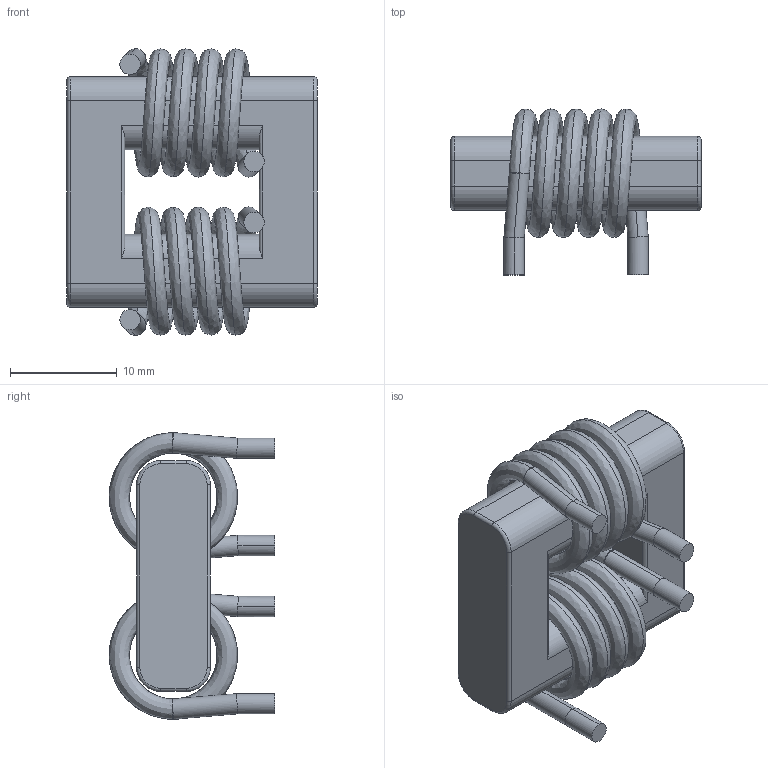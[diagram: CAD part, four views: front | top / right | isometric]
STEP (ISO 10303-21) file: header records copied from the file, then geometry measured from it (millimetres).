
FILE_DESCRIPTION (( 'STEP AP214' ), '1' );
FILE_NAME ('成品线圈3D图-THT-0766-700.STEP', '2025-08-25T08:58:18', ( '微软用户' ), ( '微软中国' ), 'SwSTEP 2.0', 'SolidWorks 2018', '' );
FILE_SCHEMA (( 'AUTOMOTIVE_DESIGN' ));
Length unit declared in the file: millimetre
Products named in the file (1): 成品线圈3D图-THT-0766-700
Bounding box: 23.4 x 15.51 x 26.8 mm (x, y, z)
Volume: 3557.4 mm3; surface area: 3499.1 mm2
Topology: 3 solids, 3 shells, 78 faces, 202 edges, 130 vertices
Faces by surface type: cylinder 48, plane 14, bspline 8, torus 8
Entity records: 5608 total; most frequent: CARTESIAN_POINT 3677, ORIENTED_EDGE 404, DIRECTION 322, EDGE_CURVE 202, VERTEX_POINT 130, AXIS2_PLACEMENT_3D 125, EDGE_LOOP 80, FACE_OUTER_BOUND 78
